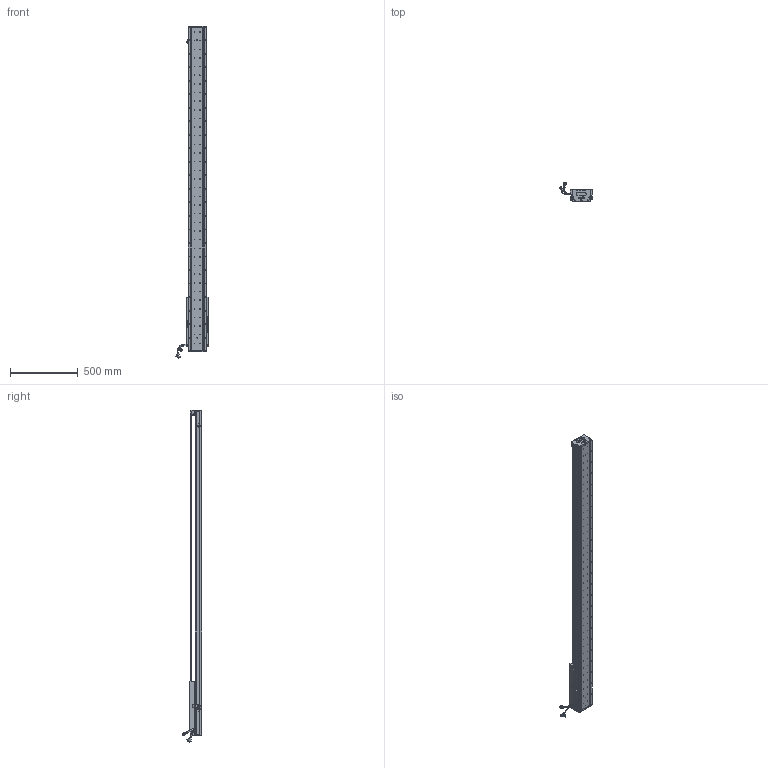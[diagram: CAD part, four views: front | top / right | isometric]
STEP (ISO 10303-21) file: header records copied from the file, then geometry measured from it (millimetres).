
FILE_DESCRIPTION (( 'STEP AP203' ), '1' );
FILE_NAME ('Z5-RY140D-1-L500-B-K.SLDASM_1950.step', '2021-05-17T08:38:19', ( '盈信电脑' ), ( '东莞市道滘镇水果街19号' ), 'SwSTEP 2.0', 'SolidWorks 2016', '' );
FILE_SCHEMA (( 'CONFIG_CONTROL_DESIGN' ));
Length unit declared in the file: millimetre
Products named in the file (36): SCREW-M1.6-2; 140雄赽晤鎢ん堤盄; SCREW-M1.6-3; COVER-Part-1; PSLH080_PSLF2; COVER; 覜茼ん672; SCALE-Part-2; 140蚥薯蝶輸; SCALE-Part-1; SEAL; 080黍杅芛假蚾釱21遴; SHIELDPLATE; HARNESS-Part-1; Z5-RY140-L500直线电机模组底座_1950; 榋妏寠巭燃_暯_M2_2; PBU_SHEET; HARNESS; Z5-RY140圉猾敕臏賑輸(21遴); Z-140詩湍傷裔啣; SCREW-M1.7; 140-Z-臏賑輸盄裔(21遴); HOLDER0; Z5-RY140-L500詩湍100mm遵_1950; LABEL; 詩湍奻揤裔; LABEL-Part-1; 詩湍狟揤裔; SCALE; HARNESS-Part-2; SEAL-Part-1; Z-RY140感应器672光电感应片; SCREW-M1.6-1; SCREW-M1.6; Z5-RY140D-1-L500-B-K.SLDASM_1950; SCREW-M1.7-1
Assembly tree (41 placements, depth 4):
  Z5-RY140D-1-L500-B-K.SLDASM_1950
    Z5-RY140-L500直线电机模组底座_1950
    Z-RY140感应器672光电感应片
    Z5-RY140圉猾敕臏賑輸(21遴)
    覜茼ん672  x3
    Z5-RY140-L500詩湍100mm遵_1950
    PSLH080_PSLF2
      SCALE
        SCALE-Part-1
        SCALE-Part-2
      HARNESS
        HARNESS-Part-1
        HARNESS-Part-2
      LABEL
        LABEL-Part-1
      COVER
        COVER-Part-1
      SEAL
        SEAL-Part-1
      榋妏寠巭燃_暯_M2_2
      SHIELDPLATE
      SCREW-M1.7
      SCREW-M1.7-1
      PBU_SHEET
      SCREW-M1.6
      SCREW-M1.6-1
      SCREW-M1.6-2
      SCREW-M1.6-3
      HOLDER0
    080黍杅芛假蚾釱21遴
    140-Z-臏賑輸盄裔(21遴)
    Z-140詩湍傷裔啣  x2
    詩湍狟揤裔  x2
    詩湍奻揤裔  x2
    140蚥薯蝶輸  x2
    140雄赽晤鎢ん堤盄
Bounding box: 239.84 x 143.88 x 2455.87 mm (x, y, z)
Volume: 8344044.5 mm3; surface area: 2130974.1 mm2
Topology: 36 solids, 36 shells, 3986 faces, 10790 edges, 6835 vertices
Faces by surface type: cylinder 2136, plane 1338, cone 390, torus 69, bspline 53
Entity records: 125166 total; most frequent: CARTESIAN_POINT 34615, ORIENTED_EDGE 18524, DIRECTION 17406, EDGE_CURVE 9262, AXIS2_PLACEMENT_3D 6490, VERTEX_POINT 6003, VECTOR 4426, LINE 4426
